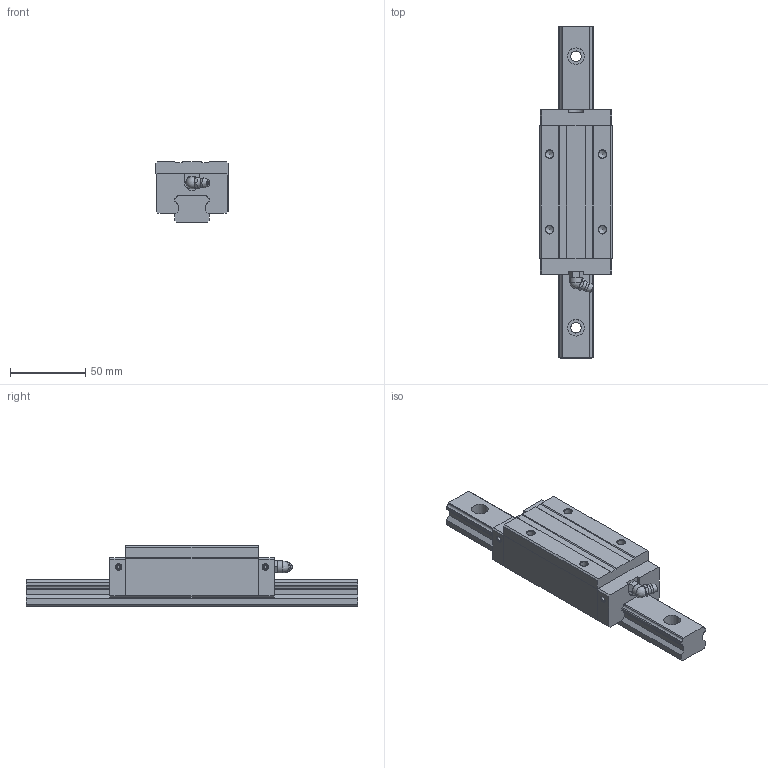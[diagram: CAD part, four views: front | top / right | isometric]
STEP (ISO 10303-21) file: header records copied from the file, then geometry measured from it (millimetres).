
FILE_DESCRIPTION(/* description */ (''),/* implementation_level */ '2;1');
FILE_NAME(/* name */ 'SME25-LSA',/* time_stamp */ '2008-10-06T09:42:30+08:00',/* author */ (''),/* organization */ (''),/* preprocessor_version */ 'ST-DEVELOPER v11',/* originating_system */ 'UGS - NX 5.0',/* authorisation */ '');
FILE_SCHEMA (('AUTOMOTIVE_DESIGN { 1 0 10303 214 1 1 1 1 }'));
Length unit declared in the file: millimetre
Products named in the file (1): SME25LSA_UG
Bounding box: 48 x 220 x 40 mm (x, y, z)
Volume: 219361.7 mm3; surface area: 45481.1 mm2
Topology: 3 solids, 3 shells, 175 faces, 455 edges, 300 vertices
Faces by surface type: plane 103, cylinder 49, cone 13, torus 7, sphere 2, bspline 1
Full cylindrical faces by diameter (mm): 2 x4, 3.3 x4, 5.2 x4, 6.5 x2, 7 x4, 8 x1, 11 x4
Entity records: 5397 total; most frequent: CARTESIAN_POINT 1026, DIRECTION 848, ORIENTED_EDGE 790, EDGE_CURVE 395, AXIS2_PLACEMENT_3D 298, VERTEX_POINT 284, LINE 252, VECTOR 252
